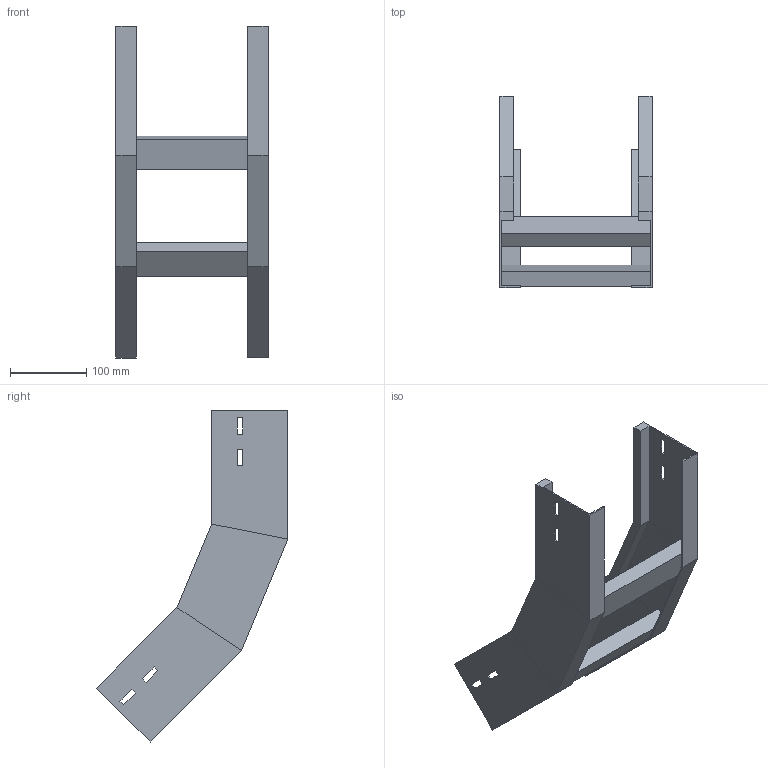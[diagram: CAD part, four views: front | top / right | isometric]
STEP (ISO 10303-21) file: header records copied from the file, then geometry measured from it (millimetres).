
FILE_DESCRIPTION (( 'STEP AP214' ), '1' );
FILE_NAME ('A2X31B3D200XX.step', '2025-03-20T10:03:50', ( '' ), ( '' ), 'SwSTEP 2.0', 'SolidWorks 2023', '' );
FILE_SCHEMA (( 'AUTOMOTIVE_DESIGN' ));
Length unit declared in the file: millimetre
Products named in the file (3): TRAVERSINO_200; LONGH.SALITA_45°_H100_R300; A2X31B3D200XX
Assembly tree (4 placements, depth 2):
  A2X31B3D200XX
    LONGH.SALITA_45°_H100_R300  x2
    TRAVERSINO_200  x2
Bounding box: 200 x 251.29 x 435.96 mm (x, y, z)
Volume: 710310.5 mm3; surface area: 314491 mm2
Topology: 4 solids, 4 shells, 96 faces, 232 edges, 144 vertices
Faces by surface type: plane 96
Entity records: 1472 total; most frequent: CARTESIAN_POINT 243, ORIENTED_EDGE 232, DIRECTION 226, EDGE_CURVE 116, VECTOR 116, LINE 116, VERTEX_POINT 72, EDGE_LOOP 56
